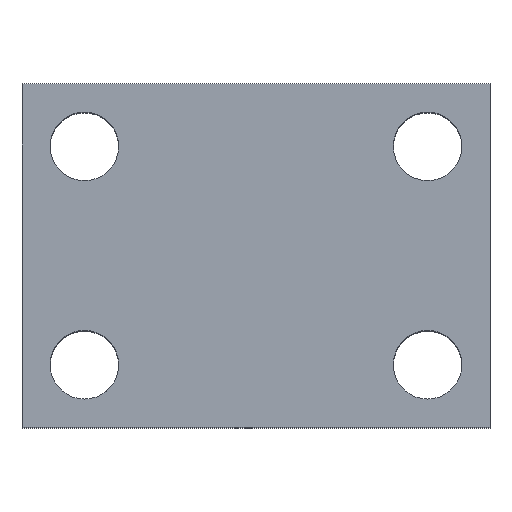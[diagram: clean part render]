
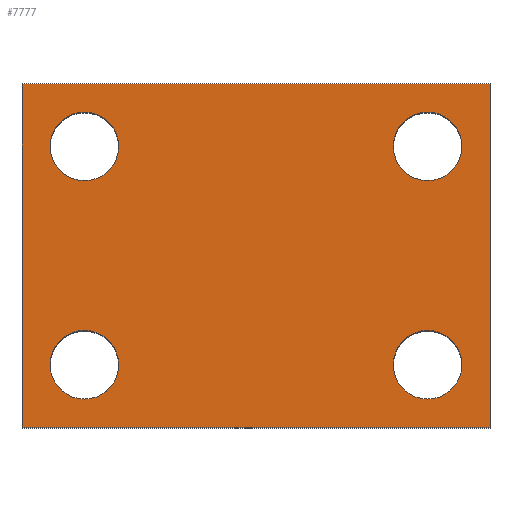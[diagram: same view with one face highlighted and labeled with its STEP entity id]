
A CAD part, top view. The second image highlights one B-rep face of the part: STEP entity #7777.
In plain terms, the highlighted planar face has unit normal (0, 0, 1).
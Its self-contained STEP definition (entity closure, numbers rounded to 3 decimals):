
#59 = EDGE_CURVE ( 'NONE', #11893, #13494, #3723, .T. ) ;
#92 = CARTESIAN_POINT ( 'NONE',  ( 27.5, 45., 47.5 ) ) ;
#340 = CARTESIAN_POINT ( 'NONE',  ( -37.5, 55., 47.5 ) ) ;
#364 = DIRECTION ( 'NONE',  ( 0., 0., -1. ) ) ;
#621 = VECTOR ( 'NONE', #8319, 1000. ) ;
#707 = ORIENTED_EDGE ( 'NONE', *, *, #16514, .T. ) ;
#737 = FACE_OUTER_BOUND ( 'NONE', #7923, .T. ) ;
#993 = VERTEX_POINT ( 'NONE', #14042 ) ;
#1092 = CARTESIAN_POINT ( 'NONE',  ( -22., 45., 47.5 ) ) ;
#1173 = FACE_BOUND ( 'NONE', #2141, .T. ) ;
#1280 = AXIS2_PLACEMENT_3D ( 'NONE', #7365, #16749, #8696 ) ;
#1294 = CARTESIAN_POINT ( 'NONE',  ( 37.5, 55., 47.5 ) ) ;
#1370 = EDGE_CURVE ( 'NONE', #13494, #7650, #2059, .T. ) ;
#1450 = DIRECTION ( 'NONE',  ( -1., 0., 0. ) ) ;
#1704 = DIRECTION ( 'NONE',  ( 0., 0., -1. ) ) ;
#2059 = LINE ( 'NONE', #8291, #14932 ) ;
#2141 = EDGE_LOOP ( 'NONE', ( #3248, #3149 ) ) ;
#2159 = ORIENTED_EDGE ( 'NONE', *, *, #7309, .T. ) ;
#2796 = AXIS2_PLACEMENT_3D ( 'NONE', #9595, #1704, #10941 ) ;
#3080 = EDGE_CURVE ( 'NONE', #8211, #11633, #14072, .T. ) ;
#3149 = ORIENTED_EDGE ( 'NONE', *, *, #8303, .T. ) ;
#3194 = DIRECTION ( 'NONE',  ( 0., -1., 0. ) ) ;
#3248 = ORIENTED_EDGE ( 'NONE', *, *, #4409, .T. ) ;
#3636 = AXIS2_PLACEMENT_3D ( 'NONE', #15006, #6986, #16352 ) ;
#3723 = LINE ( 'NONE', #11001, #621 ) ;
#3868 = CARTESIAN_POINT ( 'NONE',  ( 22., 10., 47.5 ) ) ;
#3965 = EDGE_CURVE ( 'NONE', #11893, #15485, #15551, .T. ) ;
#4176 = DIRECTION ( 'NONE',  ( 0., 0., -1. ) ) ;
#4234 = FACE_BOUND ( 'NONE', #12452, .T. ) ;
#4236 = AXIS2_PLACEMENT_3D ( 'NONE', #15167, #7142, #16528 ) ;
#4409 = EDGE_CURVE ( 'NONE', #13712, #14421, #8604, .T. ) ;
#4436 = CARTESIAN_POINT ( 'NONE',  ( -33., 45., 47.5 ) ) ;
#4448 = CARTESIAN_POINT ( 'NONE',  ( -37.5, 55., 47.5 ) ) ;
#5795 = CIRCLE ( 'NONE', #14286, 5.5 ) ;
#5935 = AXIS2_PLACEMENT_3D ( 'NONE', #7831, #17202, #9171 ) ;
#6004 = ORIENTED_EDGE ( 'NONE', *, *, #9194, .T. ) ;
#6217 = VERTEX_POINT ( 'NONE', #9433 ) ;
#6947 = DIRECTION ( 'NONE',  ( 0., -1., 0. ) ) ;
#6963 = CARTESIAN_POINT ( 'NONE',  ( 27.5, 45., 47.5 ) ) ;
#6986 = DIRECTION ( 'NONE',  ( 0., 0., -1. ) ) ;
#7142 = DIRECTION ( 'NONE',  ( 0., 0., -1. ) ) ;
#7309 = EDGE_CURVE ( 'NONE', #6217, #993, #15288, .T. ) ;
#7318 = CARTESIAN_POINT ( 'NONE',  ( -37.5, 0., 47.5 ) ) ;
#7365 = CARTESIAN_POINT ( 'NONE',  ( -27.5, 45., 47.5 ) ) ;
#7586 = VERTEX_POINT ( 'NONE', #3868 ) ;
#7650 = VERTEX_POINT ( 'NONE', #8239 ) ;
#7764 = FACE_BOUND ( 'NONE', #15698, .T. ) ;
#7777 = ADVANCED_FACE ( 'NONE', ( #1173, #14862, #7764, #4234, #737 ), #13663, .F. ) ;
#7831 = CARTESIAN_POINT ( 'NONE',  ( -27.5, 10., 47.5 ) ) ;
#7923 = EDGE_LOOP ( 'NONE', ( #15031, #8951, #12239, #9936 ) ) ;
#7999 = ORIENTED_EDGE ( 'NONE', *, *, #3080, .T. ) ;
#8211 = VERTEX_POINT ( 'NONE', #10964 ) ;
#8239 = CARTESIAN_POINT ( 'NONE',  ( 37.5, 0., 47.5 ) ) ;
#8279 = CARTESIAN_POINT ( 'NONE',  ( 27.5, 10., 47.5 ) ) ;
#8291 = CARTESIAN_POINT ( 'NONE',  ( 37.5, 55., 47.5 ) ) ;
#8303 = EDGE_CURVE ( 'NONE', #14421, #13712, #9324, .T. ) ;
#8308 = DIRECTION ( 'NONE',  ( -1., 0., 0. ) ) ;
#8319 = DIRECTION ( 'NONE',  ( 1., 0., 0. ) ) ;
#8531 = VECTOR ( 'NONE', #10249, 1000. ) ;
#8604 = CIRCLE ( 'NONE', #15522, 5.5 ) ;
#8696 = DIRECTION ( 'NONE',  ( -1., 0., 0. ) ) ;
#8951 = ORIENTED_EDGE ( 'NONE', *, *, #1370, .F. ) ;
#8966 = LINE ( 'NONE', #15676, #8531 ) ;
#9171 = DIRECTION ( 'NONE',  ( -1., 0., 0. ) ) ;
#9194 = EDGE_CURVE ( 'NONE', #11633, #8211, #5795, .T. ) ;
#9324 = CIRCLE ( 'NONE', #1280, 5.5 ) ;
#9340 = DIRECTION ( 'NONE',  ( 0., 0., -1. ) ) ;
#9433 = CARTESIAN_POINT ( 'NONE',  ( -33., 10., 47.5 ) ) ;
#9595 = CARTESIAN_POINT ( 'NONE',  ( -27.5, 10., 47.5 ) ) ;
#9605 = DIRECTION ( 'NONE',  ( -1., 0., 0. ) ) ;
#9861 = AXIS2_PLACEMENT_3D ( 'NONE', #6963, #16337, #8308 ) ;
#9936 = ORIENTED_EDGE ( 'NONE', *, *, #3965, .T. ) ;
#10249 = DIRECTION ( 'NONE',  ( 1., 0., 0. ) ) ;
#10771 = ORIENTED_EDGE ( 'NONE', *, *, #13225, .T. ) ;
#10941 = DIRECTION ( 'NONE',  ( -1., 0., 0. ) ) ;
#10964 = CARTESIAN_POINT ( 'NONE',  ( 33., 45., 47.5 ) ) ;
#11001 = CARTESIAN_POINT ( 'NONE',  ( -37.5, 55., 47.5 ) ) ;
#11151 = CIRCLE ( 'NONE', #3636, 5.5 ) ;
#11633 = VERTEX_POINT ( 'NONE', #13630 ) ;
#11893 = VERTEX_POINT ( 'NONE', #340 ) ;
#12138 = CARTESIAN_POINT ( 'NONE',  ( -27.5, 45., 47.5 ) ) ;
#12239 = ORIENTED_EDGE ( 'NONE', *, *, #59, .F. ) ;
#12388 = VECTOR ( 'NONE', #3194, 1000. ) ;
#12402 = CIRCLE ( 'NONE', #5935, 5.5 ) ;
#12452 = EDGE_LOOP ( 'NONE', ( #6004, #7999 ) ) ;
#13225 = EDGE_CURVE ( 'NONE', #15580, #7586, #11151, .T. ) ;
#13293 = CIRCLE ( 'NONE', #14458, 5.5 ) ;
#13449 = DIRECTION ( 'NONE',  ( -1., 0., 0. ) ) ;
#13494 = VERTEX_POINT ( 'NONE', #1294 ) ;
#13630 = CARTESIAN_POINT ( 'NONE',  ( 22., 45., 47.5 ) ) ;
#13663 = PLANE ( 'NONE',  #4236 ) ;
#13712 = VERTEX_POINT ( 'NONE', #4436 ) ;
#14007 = EDGE_CURVE ( 'NONE', #993, #6217, #12402, .T. ) ;
#14042 = CARTESIAN_POINT ( 'NONE',  ( -22., 10., 47.5 ) ) ;
#14072 = CIRCLE ( 'NONE', #9861, 5.5 ) ;
#14286 = AXIS2_PLACEMENT_3D ( 'NONE', #92, #9340, #1450 ) ;
#14421 = VERTEX_POINT ( 'NONE', #1092 ) ;
#14458 = AXIS2_PLACEMENT_3D ( 'NONE', #8279, #364, #9605 ) ;
#14814 = EDGE_CURVE ( 'NONE', #15485, #7650, #8966, .T. ) ;
#14862 = FACE_BOUND ( 'NONE', #17129, .T. ) ;
#14932 = VECTOR ( 'NONE', #6947, 1000. ) ;
#15006 = CARTESIAN_POINT ( 'NONE',  ( 27.5, 10., 47.5 ) ) ;
#15031 = ORIENTED_EDGE ( 'NONE', *, *, #14814, .T. ) ;
#15167 = CARTESIAN_POINT ( 'NONE',  ( -37.5, 55., 47.5 ) ) ;
#15288 = CIRCLE ( 'NONE', #2796, 5.5 ) ;
#15485 = VERTEX_POINT ( 'NONE', #7318 ) ;
#15522 = AXIS2_PLACEMENT_3D ( 'NONE', #12138, #4176, #13449 ) ;
#15551 = LINE ( 'NONE', #4448, #12388 ) ;
#15580 = VERTEX_POINT ( 'NONE', #15633 ) ;
#15633 = CARTESIAN_POINT ( 'NONE',  ( 33., 10., 47.5 ) ) ;
#15676 = CARTESIAN_POINT ( 'NONE',  ( -37.5, 0., 47.5 ) ) ;
#15698 = EDGE_LOOP ( 'NONE', ( #707, #10771 ) ) ;
#16337 = DIRECTION ( 'NONE',  ( 0., 0., -1. ) ) ;
#16352 = DIRECTION ( 'NONE',  ( -1., 0., 0. ) ) ;
#16514 = EDGE_CURVE ( 'NONE', #7586, #15580, #13293, .T. ) ;
#16528 = DIRECTION ( 'NONE',  ( -1., 0., 0. ) ) ;
#16749 = DIRECTION ( 'NONE',  ( 0., 0., -1. ) ) ;
#16860 = ORIENTED_EDGE ( 'NONE', *, *, #14007, .T. ) ;
#17129 = EDGE_LOOP ( 'NONE', ( #2159, #16860 ) ) ;
#17202 = DIRECTION ( 'NONE',  ( 0., 0., -1. ) ) ;
